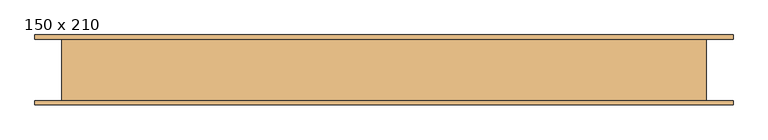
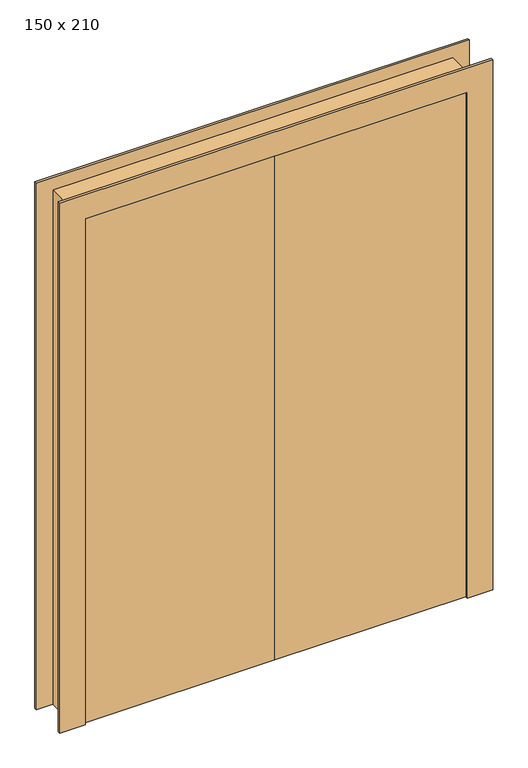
"""IFC4 building model written with IfcOpenShell, lengths in millimetres: door geometry, PORTA VAI-E-VEM - 2 FOLHAS : 150 x 210."""

import ifcopenshell
import ifcopenshell.guid

model = None  # the IFC model being written
_history = None  # IfcOwnerHistory: only IFC2X3 demands one
_inside = {}  # id of a spatial element -> (the spatial element, [elements in it])
_under = {}  # id of a project, library or spatial element -> (it, [spatial elements below it])
_declared = {}  # id of a project -> (the project, [libraries it declares])
_typed = {}  # id of a type object -> (the type object, [elements of that type])
_made_of = {}  # id of a material, layer set ... -> (it, [elements and type objects made of it])


def new_model(schema):
    """Start an empty IFC model of exactly this schema.

    Asked for "IFC4X3", IfcOpenShell would pick the latest addendum, in which some entities
    have other attributes; the version numbers below select the first issue.
    IFC2X3 requires an IfcOwnerHistory on every rooted entity: one is made here for all.
    """
    global model, _history
    if schema == "IFC4X3":
        model = ifcopenshell.file(schema_version=(4, 3, 0, 0))
    else:
        model = ifcopenshell.file(schema=schema)
    _inside.clear()
    _under.clear()
    _declared.clear()
    _typed.clear()
    _made_of.clear()
    _history = None
    if model.schema == "IFC2X3":
        org = make("IfcOrganization", Name="unknown")
        user = make(
            "IfcPersonAndOrganization",
            ThePerson=make("IfcPerson", FamilyName="unknown"),
            TheOrganization=org,
        )
        app = make(
            "IfcApplication",
            ApplicationDeveloper=org,
            Version="unknown",
            ApplicationFullName="unknown",
            ApplicationIdentifier="unknown",
        )
        _history = make(
            "IfcOwnerHistory",
            OwningUser=user,
            OwningApplication=app,
            ChangeAction="ADDED",
            CreationDate=0,
        )
    return model


def make(cls, **values):
    """One entity of the class cls with the attributes given. An attribute that is None is left unset."""
    return model.create_entity(
        cls, **{name: value for name, value in values.items() if value is not None}
    )


def rooted(cls, **values):
    """An entity with a GlobalId (a new one), such as an element, a storey or a relation."""
    return make(cls, GlobalId=ifcopenshell.guid.new(), OwnerHistory=_history, **values)


def si_unit(unit_type, name, prefix=None):
    """IfcSIUnit, for example si_unit("LENGTHUNIT", "METRE", prefix="MILLI")."""
    return make("IfcSIUnit", UnitType=unit_type, Prefix=prefix, Name=name)


def assignment(units):
    """IfcUnitAssignment: the units of a project."""
    return None if units is None else make("IfcUnitAssignment", Units=units)


def point(xyz):
    """IfcCartesianPoint."""
    return None if xyz is None else make("IfcCartesianPoint", Coordinates=xyz)


def direction(xyz):
    """IfcDirection."""
    return None if xyz is None else make("IfcDirection", DirectionRatios=xyz)


def frame(location, z_axis=None, x_axis=None):
    """IfcAxis2Placement3D, a coordinate frame: its origin and axes. An axis left out is left unset."""
    return make(
        "IfcAxis2Placement3D",
        Location=point(location),
        Axis=direction(z_axis),
        RefDirection=direction(x_axis),
    )


def origin():
    """The frame at (0, 0, 0) with its axes left unset."""
    return frame((0.0, 0.0, 0.0))


def origin_with_axes():
    """The frame at (0, 0, 0) with the z axis (0, 0, 1) and the x axis (1, 0, 0) written out."""
    return frame((0.0, 0.0, 0.0), z_axis=(0.0, 0.0, 1.0), x_axis=(1.0, 0.0, 0.0))


def place(relative_to, where):
    """IfcLocalPlacement: puts the frame where relative to a parent placement (None: the world)."""
    return make(
        "IfcLocalPlacement", PlacementRelTo=relative_to, RelativePlacement=where
    )


def context(
    kind, dimensions, precision=None, world=None, true_north=None, identifier=None
):
    """IfcGeometricRepresentationContext, for example the 3D "Model" context."""
    return make(
        "IfcGeometricRepresentationContext",
        ContextIdentifier=identifier,
        ContextType=kind,
        CoordinateSpaceDimension=dimensions,
        Precision=precision,
        WorldCoordinateSystem=world,
        TrueNorth=true_north,
    )


def project(units=None, contexts=None):
    """IfcProject with its units and contexts."""
    return rooted(
        "IfcProject",
        Name="project",
        RepresentationContexts=contexts,
        UnitsInContext=assignment(units),
    )


def spatial(cls, under=None, at=None, **own):
    """A site, building, storey or space (cls), placed at a placement, below another one or the project."""
    s = rooted(cls, ObjectPlacement=at, **own)
    if under is not None:
        _under.setdefault(under.id(), (under, []))[1].append(s)
    return s


def polyline(points):
    """IfcPolyline through the points."""
    return make("IfcPolyline", Points=[point(p) for p in points])


def outline(outer, holes=None, kind="AREA"):
    """IfcArbitraryClosedProfileDef: a profile drawn as a closed curve; with holes, ...WithVoids."""
    if holes is None:
        return make("IfcArbitraryClosedProfileDef", ProfileType=kind, OuterCurve=outer)
    return make(
        "IfcArbitraryProfileDefWithVoids",
        ProfileType=kind,
        OuterCurve=outer,
        InnerCurves=holes,
    )


def extrude(swept, where, along, depth):
    """IfcExtrudedAreaSolid: the profile swept, set in the frame where, extruded along a direction by depth."""
    return make(
        "IfcExtrudedAreaSolid",
        SweptArea=swept,
        Position=where,
        ExtrudedDirection=direction(along),
        Depth=depth,
    )


def shape(context_of_items, identifier, shape_type, items):
    """IfcShapeRepresentation: the items that make up one representation, for example the "Body"."""
    return make(
        "IfcShapeRepresentation",
        ContextOfItems=context_of_items,
        RepresentationIdentifier=identifier,
        RepresentationType=shape_type,
        Items=items,
    )


def source(mapping_origin, context_of_items, identifier, shape_type, items):
    """IfcRepresentationMap: a shape defined once, which mapped items show again and again."""
    return make(
        "IfcRepresentationMap",
        MappingOrigin=mapping_origin,
        MappedRepresentation=shape(context_of_items, identifier, shape_type, items),
    )


def transform(
    local_origin,
    x_axis=None,
    y_axis=None,
    z_axis=None,
    scale=None,
    scale2=None,
    scale3=None,
    uniform=True,
):
    """IfcCartesianTransformationOperator3D, or its non-uniform kind. x_axis, y_axis, z_axis: its Axis1, 2, 3."""
    if uniform:
        return make(
            "IfcCartesianTransformationOperator3D",
            Axis1=direction(x_axis),
            Axis2=direction(y_axis),
            LocalOrigin=point(local_origin),
            Scale=scale,
            Axis3=direction(z_axis),
        )
    return make(
        "IfcCartesianTransformationOperator3DnonUniform",
        Axis1=direction(x_axis),
        Axis2=direction(y_axis),
        LocalOrigin=point(local_origin),
        Scale=scale,
        Axis3=direction(z_axis),
        Scale2=scale2,
        Scale3=scale3,
    )


def mapped(mapping_source, mapping_target):
    """IfcMappedItem: shows the shape of a source again, moved by a transform."""
    return make(
        "IfcMappedItem", MappingSource=mapping_source, MappingTarget=mapping_target
    )


def made_of(thing, what):
    """Note that an element or type object is made of a material, layer set ...; save() writes the relation."""
    if what is not None:
        _made_of.setdefault(what.id(), (what, []))[1].append(thing)
    return thing


def element(
    cls,
    number,
    at=None,
    inside=None,
    cuts=None,
    type_object=None,
    material=None,
    context=None,
    identifier="Body",
    shape_type=None,
    held_by="IfcProductDefinitionShape",
    body=None,
    shapes=None,
    **own,
):
    """One element of the class cls, such as IfcWall. Its Tag is "e" and its number.

    at: its placement. inside: the storey or other place that contains it. cuts: it is an
    opening in that element (IfcRelVoidsElement). A single representation is given by context,
    identifier, shape_type and body (its items); several are given by shapes. held_by: the class
    of the entity that holds the representations. save() writes the other relations.
    """
    e = rooted(cls, Tag="e%d" % number, ObjectPlacement=at, **own)
    if body is not None:
        shapes = [shape(context, identifier, shape_type, body)]
    if shapes is not None:
        e.Representation = make(held_by, Representations=shapes)
    if inside is not None:
        _inside.setdefault(inside.id(), (inside, []))[1].append(e)
    if cuts is not None:
        rooted(
            "IfcRelVoidsElement", RelatingBuildingElement=cuts, RelatedOpeningElement=e
        )
    if type_object is not None:
        _typed.setdefault(type_object.id(), (type_object, []))[1].append(e)
    return made_of(e, material)


def aggregate(whole, parts):
    """IfcRelAggregates: a whole, such as a stair, and the parts it consists of."""
    return rooted("IfcRelAggregates", RelatingObject=whole, RelatedObjects=parts)


def save(model, path):
    """Write the relations noted so far, then the file.

    IfcRelAggregates (storeys below a building ...), IfcRelContainedInSpatialStructure (elements
    in a storey), IfcRelDefinesByType, IfcRelAssociatesMaterial and IfcRelDeclares: one each for
    every whole, place, type object, material and project.
    """
    for whole, parts in _under.values():
        aggregate(whole, parts)
    for where, things in _inside.values():
        rooted(
            "IfcRelContainedInSpatialStructure",
            RelatedElements=things,
            RelatingStructure=where,
        )
    for kind, things in _typed.values():
        rooted("IfcRelDefinesByType", RelatedObjects=things, RelatingType=kind)
    for what, things in _made_of.values():
        rooted("IfcRelAssociatesMaterial", RelatedObjects=things, RelatingMaterial=what)
    for by, libraries in _declared.values():
        rooted("IfcRelDeclares", RelatingContext=by, RelatedDefinitions=libraries)
    model.write(path)


def door_150_x_210_0a50c08e(model_context):
    return source(origin(), model_context, "Body", "SweptSolid", [
        extrude(outline(polyline([(95.0, -85.6223167), (95.0, -45.6223167), (845.0, -45.6223167), (845.0, -85.6223167), (95.0, -85.6223167)])), origin_with_axes(), (0.0, 0.0, 1.0), 2100.0),
        extrude(outline(polyline([(95.0, -85.6223167), (-655.0, -85.6223167), (-655.0, -45.6223167), (95.0, -45.6223167), (95.0, -85.6223167)])), origin_with_axes(), (0.0, 0.0, 1.0), 2100.0),
        extrude(outline(polyline([(2085.0, 845.0), (0.0, 845.0), (0.0, 945.0), (2185.0, 945.0), (2185.0, -755.0), (0.0, -755.0), (0.0, -655.0), (2085.0, -655.0), (2085.0, 845.0)])), frame((0.0, 64.3776833, 0.0), z_axis=(0.0, 1.0, 0.0), x_axis=(0.0, 0.0, 1.0)), (0.0, 0.0, 1.0), 10.0),
        extrude(outline(polyline([(2100.0, -655.0), (2100.0, 845.0), (0.0, 845.0), (0.0, 945.0), (2200.0, 945.0), (2200.0, -755.0), (0.0, -755.0), (0.0, -655.0), (2100.0, -655.0)])), frame((0.0, -95.6223167, 0.0), z_axis=(0.0, 1.0, 0.0), x_axis=(0.0, 0.0, 1.0)), (0.0, 0.0, 1.0), 10.0),
        extrude(outline(polyline([(0.0, -690.0), (0.0, -655.0), (2100.0, -655.0), (2100.0, 845.0), (0.0, 845.0), (0.0, 880.0), (2135.0, 880.0), (2135.0, -690.0), (0.0, -690.0)])), frame((0.0, -85.6223167, 0.0), z_axis=(0.0, 1.0, 0.0), x_axis=(0.0, 0.0, 1.0)), (0.0, 0.0, 1.0), 150.0),
    ])


if __name__ == "__main__":
    model = new_model("IFC4")
    model_context = context("Model", 3, world=origin())
    ifc_project = project(units=[si_unit("LENGTHUNIT", "METRE", prefix="MILLI")], contexts=[model_context])
    site = spatial("IfcSite", under=ifc_project)
    building = spatial("IfcBuilding", under=site)
    placement = place(None, origin())
    door_150_x_210_shape = door_150_x_210_0a50c08e(model_context)
    element("IfcDoor", 1, ObjectType="PORTA VAI-E-VEM - 2 FOLHAS : 150 x 210", at=placement, inside=building, context=model_context, shape_type="MappedRepresentation", body=[
        mapped(door_150_x_210_shape, transform((0.0, 0.0, 0.0), x_axis=(1.0, 0.0, 0.0), y_axis=(0.0, 1.0, 0.0), z_axis=(0.0, 0.0, 1.0))),
    ])
    save(model, "model.ifc")
